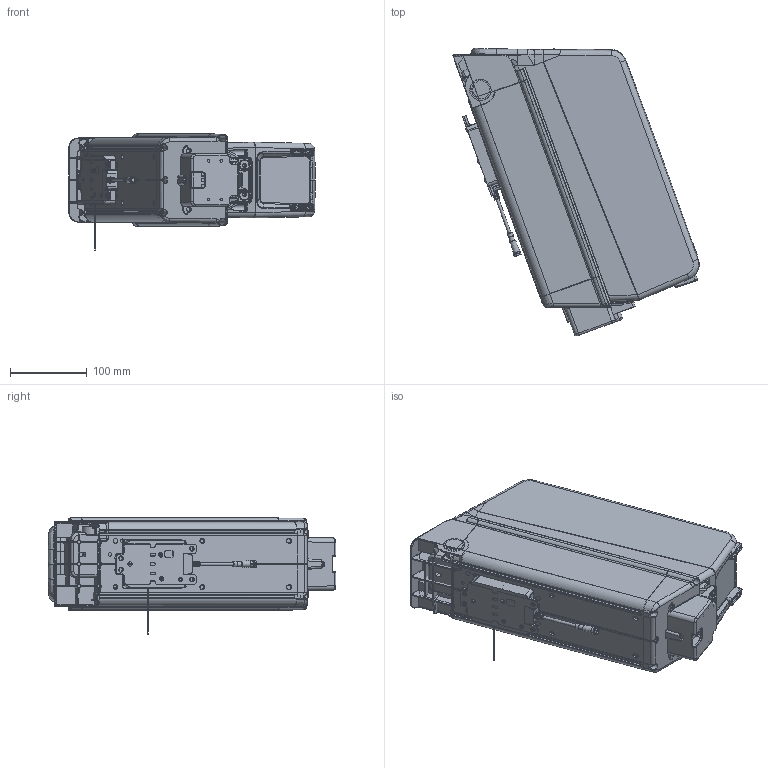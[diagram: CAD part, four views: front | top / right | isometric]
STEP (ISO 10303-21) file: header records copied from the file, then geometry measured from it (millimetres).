
FILE_DESCRIPTION(/* description */ (''),/* implementation_level */ '2;1');
FILE_NAME(/* name */ 'MEGA_SIMPLIFIED.step',/* time_stamp */ '2026-07-27T17:01:59+02:00',/* author */ (''),/* organization */ (''),/* preprocessor_version */ 'ST-DEVELOPER v20.1',/* originating_system */ 'Autodesk Translation Framework v15.8.0.0',/* authorisation */ '');
FILE_SCHEMA (('AUTOMOTIVE_DESIGN { 1 0 10303 214 3 1 1 }'));
Products named in the file (8): MEGA_REWIEW_DRAWING_ASM; TOP_COVER; BT_COVER; HD; DC; SUPPORT_WELOCK; WELOCK; SUPPORT_KEY
Assembly tree (7 placements, depth 3):
  MEGA_REWIEW_DRAWING_ASM
    TOP_COVER
    BT_COVER
    HD
    DC
    SUPPORT_WELOCK
      WELOCK
    SUPPORT_KEY
Bounding box: 319.94 x 374.03 x 150.7 mm (x, y, z)
Volume: 7034319.1 mm3; surface area: 995144 mm2
Topology: 14 solids, 37 shells, 8602 faces, 21597 edges, 13119 vertices
Faces by surface type: bspline 2813, cylinder 2663, plane 2616, cone 288, sphere 115, torus 107
Full cylindrical faces by diameter (mm): 0.6 x4, 1.5 x1, 1.95 x1, 2.1 x1, 2.2 x2, 2.3 x2, 2.4 x3, 3 x3, 3.2 x3, 3.4 x40, 3.5 x3, 3.7 x2, 4 x11, 4.2 x6, 4.5 x9, 4.598 x2, 4.6 x2, 5 x2, 5.2 x2, 5.72 x1, 6 x1, 6.2 x12, 6.5 x6, 6.7 x2, 9 x2, 20 x1, 23.4 x1
Entity records: 602416 total; most frequent: CARTESIAN_POINT 413522, ORIENTED_EDGE 43136, DIRECTION 34707, EDGE_CURVE 21568, VERTEX_POINT 13119, AXIS2_PLACEMENT_3D 12836, LINE 9035, VECTOR 9035
